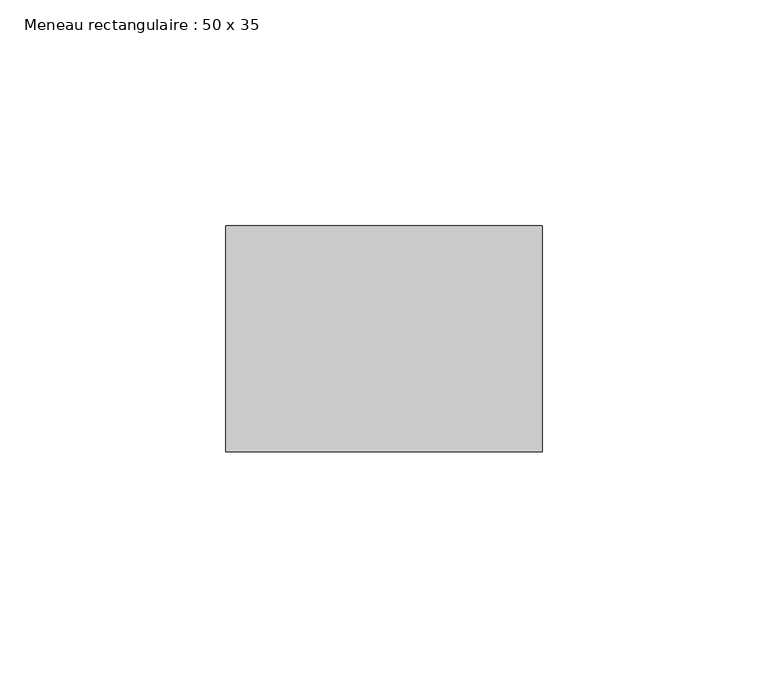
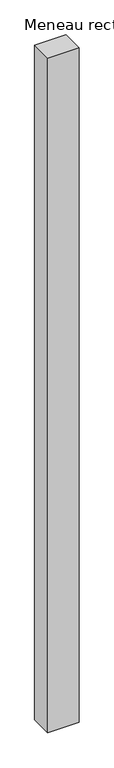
"""IFC4 building model written with IfcOpenShell, lengths in millimetres: member geometry, Meneau rectangulaire : 50 x 35."""

from ifc_helpers import new_model, si_unit, frame, origin, place, context, project, spatial, polyline, outline, extrude, source, transform, mapped, element, save


def meneau_rectangulaire_50_x_35_35e286cf(model_context):
    return source(origin(), model_context, "Body", "SweptSolid", [
        extrude(outline(polyline([(0.0, 0.0), (0.0, -50.0), (-70.0, -50.0), (-70.0, 0.0), (0.0, 0.0)])), frame((0.0, 0.0, -1588.0), z_axis=(0.0, 0.0, 1.0), x_axis=(1.0, 0.0, 0.0)), (0.0, 0.0, 1.0), 1588.0),
    ])


if __name__ == "__main__":
    model = new_model("IFC4")
    model_context = context("Model", 3, world=origin())
    ifc_project = project(units=[si_unit("LENGTHUNIT", "METRE", prefix="MILLI")], contexts=[model_context])
    site = spatial("IfcSite", under=ifc_project)
    building = spatial("IfcBuilding", under=site)
    placement = place(None, origin())
    meneau_rectangulaire_50_x_35_shape = meneau_rectangulaire_50_x_35_35e286cf(model_context)
    element("IfcMember", 1, ObjectType="Meneau rectangulaire : 50 x 35", at=placement, inside=building, context=model_context, shape_type="MappedRepresentation", body=[
        mapped(meneau_rectangulaire_50_x_35_shape, transform((0.0, 0.0, 0.0), x_axis=(1.0, 0.0, 0.0), y_axis=(0.0, 1.0, 0.0), z_axis=(0.0, 0.0, 1.0))),
    ])
    save(model, "model.ifc")
